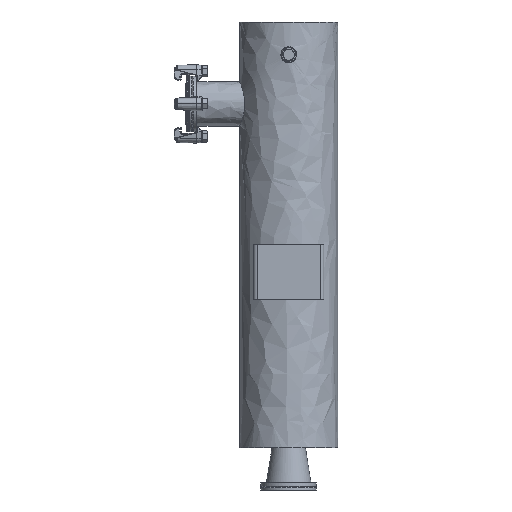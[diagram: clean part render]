
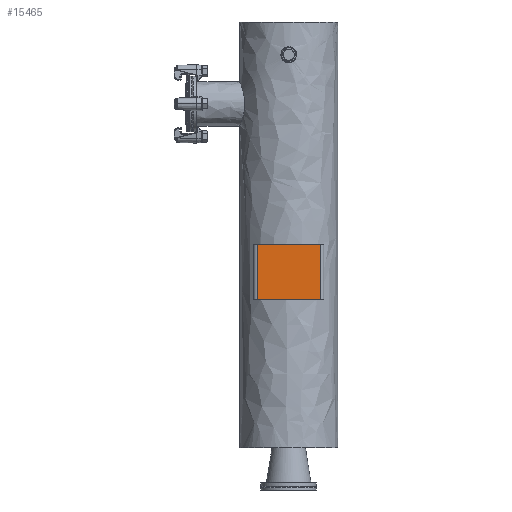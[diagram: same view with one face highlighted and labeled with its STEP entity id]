
A CAD part, front view. The second image highlights one B-rep face of the part: STEP entity #15465.
In plain terms, the highlighted planar face has unit normal (0, -1, 0).
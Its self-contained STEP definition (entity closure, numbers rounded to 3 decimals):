
#10257=DIRECTION('',(-1.,0.,0.));
#10258=VECTOR('',#10257,108.);
#10259=CARTESIAN_POINT('',(54.,-95.,-240.));
#10260=LINE('',#10259,#10258);
#10264=DIRECTION('',(1.,0.,0.));
#10265=VECTOR('',#10264,108.);
#10266=CARTESIAN_POINT('',(-54.,-95.,-335.));
#10267=LINE('',#10266,#10265);
#10271=DIRECTION('',(0.,0.,-1.));
#10272=VECTOR('',#10271,95.);
#10273=CARTESIAN_POINT('',(-54.,-95.,-240.));
#10274=LINE('',#10273,#10272);
#10278=DIRECTION('',(0.,0.,-1.));
#10279=VECTOR('',#10278,95.);
#10280=CARTESIAN_POINT('',(54.,-95.,-240.));
#10281=LINE('',#10280,#10279);
#11813=CARTESIAN_POINT('',(54.,-95.,-240.));
#11814=CARTESIAN_POINT('',(54.,-95.,-335.));
#11815=VERTEX_POINT('',#11813);
#11816=VERTEX_POINT('',#11814);
#11821=CARTESIAN_POINT('',(-54.,-95.,-240.));
#11822=VERTEX_POINT('',#11821);
#11823=CARTESIAN_POINT('',(-54.,-95.,-335.));
#11824=VERTEX_POINT('',#11823);
#15453=CARTESIAN_POINT('',(0.,-95.,-287.5));
#15454=DIRECTION('',(0.,1.,0.));
#15455=DIRECTION('',(-1.,0.,0.));
#15456=AXIS2_PLACEMENT_3D('',#15453,#15454,#15455);
#15457=PLANE('',#15456);
#15458=ORIENTED_EDGE('',*,*,#12195,.F.);
#15460=ORIENTED_EDGE('',*,*,#15459,.T.);
#15461=ORIENTED_EDGE('',*,*,#15368,.F.);
#15462=ORIENTED_EDGE('',*,*,#15446,.F.);
#15463=EDGE_LOOP('',(#15458,#15460,#15461,#15462));
#15464=FACE_OUTER_BOUND('',#15463,.F.);
#12195=EDGE_CURVE('',#11815,#11822,#10260,.T.);
#15368=EDGE_CURVE('',#11824,#11816,#10267,.T.);
#15446=EDGE_CURVE('',#11822,#11824,#10274,.T.);
#15459=EDGE_CURVE('',#11815,#11816,#10281,.T.);
#15465=ADVANCED_FACE('',(#15464),#15457,.F.);
